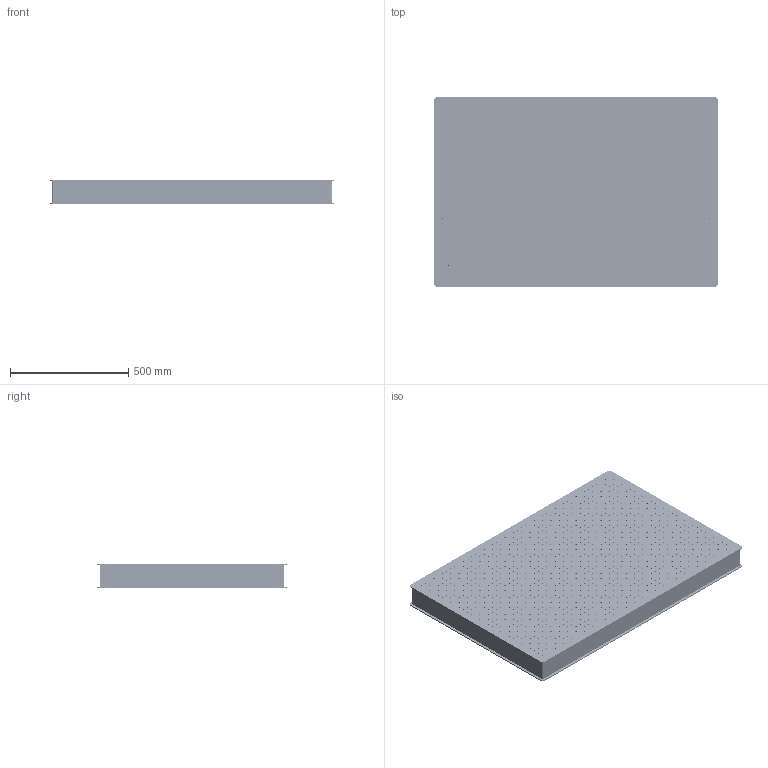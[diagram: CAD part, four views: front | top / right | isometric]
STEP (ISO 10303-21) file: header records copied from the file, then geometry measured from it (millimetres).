
FILE_DESCRIPTION (( 'STEP AP203' ), '1' );
FILE_NAME ('NTBR812-100 铁磁不锈钢面包板 AP203.STEP', '2025-02-13T03:11:28', ( '13701099104@139.COM' ), ( '' ), 'SwSTEP 2.0', 'SolidWorks 2021', '' );
FILE_SCHEMA (( 'CONFIG_CONTROL_DESIGN' ));
Products named in the file (1): NTBR812-100 铁磁不锈钢面包板 AP203
Bounding box: 1200 x 800 x 100 mm (x, y, z)
Surface area: 4326111.9 mm2 (no closed solid volume)
Topology: 0 solids, 30 shells, 2836 faces, 8724 edges, 5920 vertices
Faces by surface type: cylinder 2772, plane 64
Entity records: 106406 total; most frequent: DIRECTION 19942, CARTESIAN_POINT 17481, ORIENTED_EDGE 17080, EDGE_CURVE 8724, AXIS2_PLACEMENT_3D 8381, VERTEX_POINT 5920, EDGE_LOOP 5596, CIRCLE 5544
